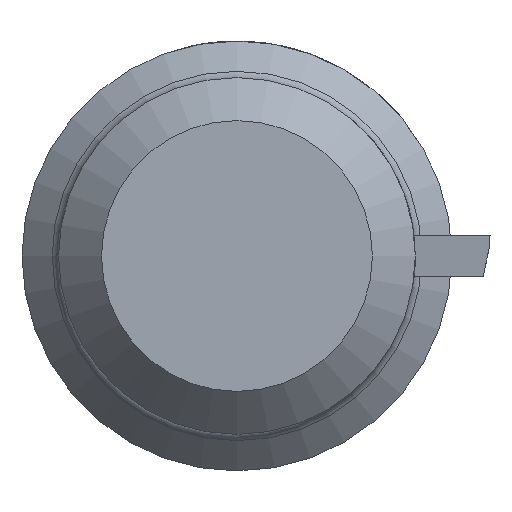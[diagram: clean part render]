
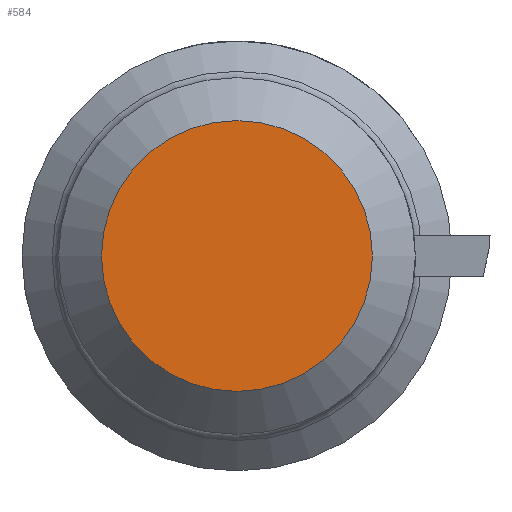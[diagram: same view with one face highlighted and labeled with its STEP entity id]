
A CAD part, left-side view. The second image highlights one B-rep face of the part: STEP entity #584.
In plain terms, the highlighted planar face has unit normal (-1, 0, 0).
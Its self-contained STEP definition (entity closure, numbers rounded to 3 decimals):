
#52=CIRCLE('',#664,3.15);
#99=FACE_OUTER_BOUND('',#133,.T.);
#133=EDGE_LOOP('',(#500));
#267=VERTEX_POINT('',#1054);
#344=EDGE_CURVE('',#267,#267,#52,.T.);
#500=ORIENTED_EDGE('',*,*,#344,.T.);
#520=PLANE('',#665);
#584=ADVANCED_FACE('',(#99),#520,.T.);
#664=AXIS2_PLACEMENT_3D('',#1055,#824,#825);
#665=AXIS2_PLACEMENT_3D('',#1057,#827,#828);
#824=DIRECTION('center_axis',(-1.,0.,0.));
#825=DIRECTION('ref_axis',(0.,0.,1.));
#827=DIRECTION('center_axis',(-1.,0.,0.));
#828=DIRECTION('ref_axis',(0.,0.,1.));
#1054=CARTESIAN_POINT('',(0.,3.15,0.));
#1055=CARTESIAN_POINT('Origin',(0.,0.,0.));
#1057=CARTESIAN_POINT('Origin',(0.,0.,0.));
